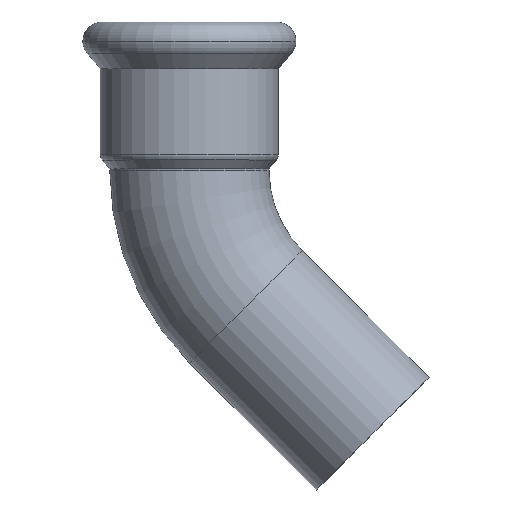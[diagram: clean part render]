
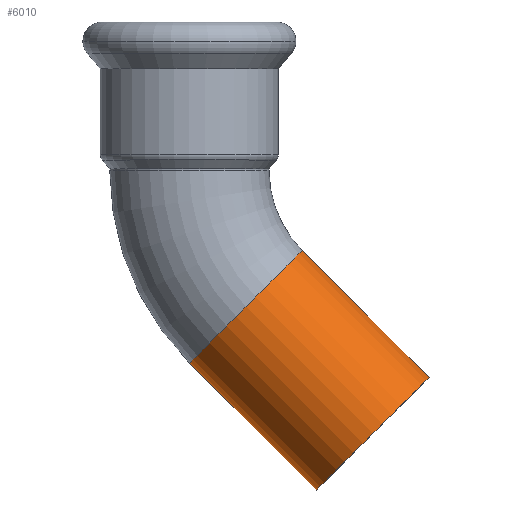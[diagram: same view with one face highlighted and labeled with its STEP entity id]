
A CAD part, top view. The second image highlights one B-rep face of the part: STEP entity #6010.
In plain terms, the highlighted cylindrical face has radius 14 mm (diameter 28 mm), a partial arc.
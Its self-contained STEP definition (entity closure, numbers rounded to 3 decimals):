
#2260=CARTESIAN_POINT('',(-394.348,17.615,0.));
#2270=DIRECTION('',(0.707,-0.707,0.));
#2280=DIRECTION('',(-0.707,-0.707,0.));
#2290=AXIS2_PLACEMENT_3D('',#2260,#2270,#2280);
#2300=CIRCLE('',#2290,14.);
#2330=CARTESIAN_POINT('',(-384.448,27.514,
0.));
#2340=VERTEX_POINT('',#2330);
#2510=CARTESIAN_POINT('',(-404.247,7.715,
0.));
#2520=VERTEX_POINT('',#2510);
#4230=CARTESIAN_POINT('',(-372.062,-4.671,0.));
#4240=DIRECTION('',(-0.707,0.707,0.));
#4250=DIRECTION('',(-0.707,-0.707,0.));
#4260=AXIS2_PLACEMENT_3D('',#4230,#4240,#4250);
#4270=CIRCLE('',#4260,14.);
#4280=CARTESIAN_POINT('',(-381.962,-14.57,0.));
#4290=VERTEX_POINT('',#4280);
#4300=CARTESIAN_POINT('',(-362.163,5.229,
0.));
#4310=VERTEX_POINT('',#4300);
#4320=EDGE_CURVE('',#4290,#4310,#4270,.T.);
#4440=CARTESIAN_POINT('',(-394.348,17.615,0.));
#4450=DIRECTION('',(-0.707,0.707,0.));
#4460=DIRECTION('',(-0.707,-0.707,0.));
#4470=AXIS2_PLACEMENT_3D('',#4440,#4450,#4460);
#4480=CYLINDRICAL_SURFACE('',#4470,14.);
#4490=CARTESIAN_POINT('',(-384.448,27.514,
0.));
#4500=DIRECTION('',(-0.707,0.707,0.));
#4510=VECTOR('',#4500,1.);
#4520=LINE('',#4490,#4510);
#4530=EDGE_CURVE('',#4310,#2340,#4520,.T.);
#4570=CARTESIAN_POINT('',(-404.247,7.715,0.));
#4580=DIRECTION('',(-0.707,0.707,0.));
#4590=VECTOR('',#4580,1.);
#4600=LINE('',#4570,#4590);
#4610=EDGE_CURVE('',#4290,#2520,#4600,.T.);
#5940=EDGE_CURVE('',#2340,#2520,#2300,.T.);
#5950=ORIENTED_EDGE('',*,*,#5940,.T.);
#5960=ORIENTED_EDGE('',*,*,#4530,.T.);
#5970=ORIENTED_EDGE('',*,*,#4320,.T.);
#5980=ORIENTED_EDGE('',*,*,#4610,.F.);
#5990=EDGE_LOOP('',(#5980,#5970,#5960,#5950));
#6000=FACE_OUTER_BOUND('',#5990,.T.);
#6010=ADVANCED_FACE('',(#6000),#4480,.T.);
